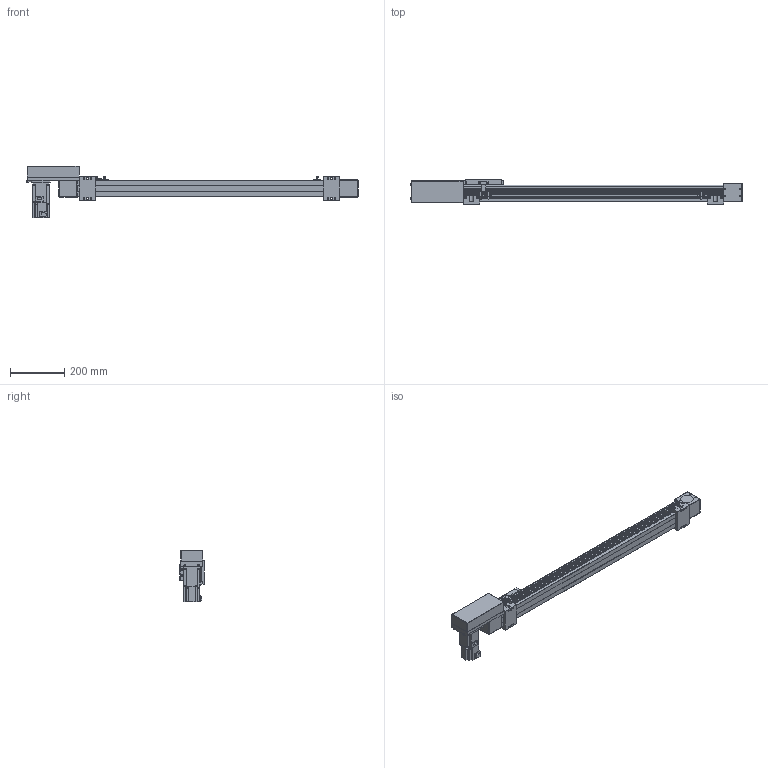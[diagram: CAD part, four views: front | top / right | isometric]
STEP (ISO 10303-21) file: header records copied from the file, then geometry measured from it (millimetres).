
FILE_DESCRIPTION(/* description */ ('STEP AP214'),/* implementation_level */ '2;1');
FILE_NAME(/* name */ 'SK60-P13-S800-R-T40-C1-N(0)',/* time_stamp */ '2023-04-06T04:27:01+02:00',/* author */ ('License CC BY-ND 4.0'),/* organization */ ('CADENAS'),/* preprocessor_version */ 'ST-DEVELOPER v19.3',/* originating_system */ 'PARTsolutions',/* authorisation */ ' ');
FILE_SCHEMA (('AUTOMOTIVE_DESIGN {1 0 10303 214 3 1 1}'));
Length unit declared in the file: millimetre
Products named in the file (10): SK60-P13-S800-R-T40-C1-N(0); PSC140-sensor; SK60-S450_seat; SK60-S450-BL-C1_slider; SK60_body3; SK60_body6; SK60-BL_body2; T40-p1; SK60-R_fb; SK60-S800-R-C1_body
Assembly tree (16 placements, depth 2):
  SK60-P13-S800-R-T40-C1-N(0)
    PSC140-sensor  x3
    SK60-S450_seat  x2
    SK60-S450-BL-C1_slider
    SK60_body3  x3
    SK60_body6  x2
    SK60-BL_body2  x2
    T40-p1
    SK60-R_fb
    SK60-S800-R-C1_body
Bounding box: 1220.5 x 90 x 189.7 mm (x, y, z)
Volume: 4943048.5 mm3; surface area: 629892.5 mm2
Topology: 16 solids, 16 shells, 810 faces, 2048 edges, 1349 vertices
Faces by surface type: plane 524, cylinder 262, cone 22, torus 2
Full cylindrical faces by diameter (mm): 2.8 x3, 3.3 x4, 4 x2, 4.5 x30, 4.6 x3, 4.917 x16, 5 x6, 5.478 x4, 5.5 x19, 6.5 x4, 7 x2, 8 x4, 8.5 x4, 9.988 x4, 10 x8, 14 x1, 47 x3, 50 x2
Entity records: 18655 total; most frequent: DIRECTION 3184, CARTESIAN_POINT 3150, ORIENTED_EDGE 2940, EDGE_CURVE 1470, AXIS2_PLACEMENT_3D 1068, LINE 1048, VECTOR 1048, VERTEX_POINT 1034
